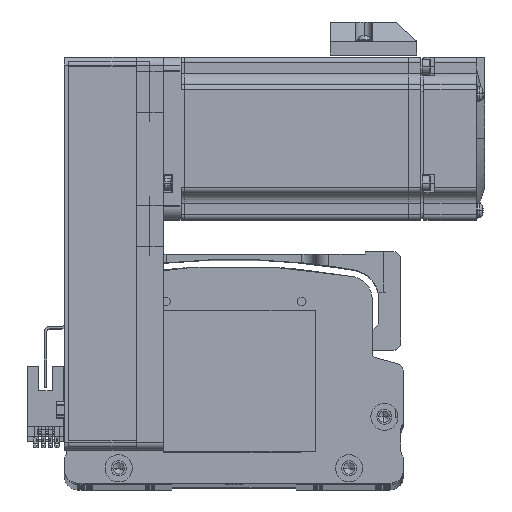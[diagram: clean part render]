
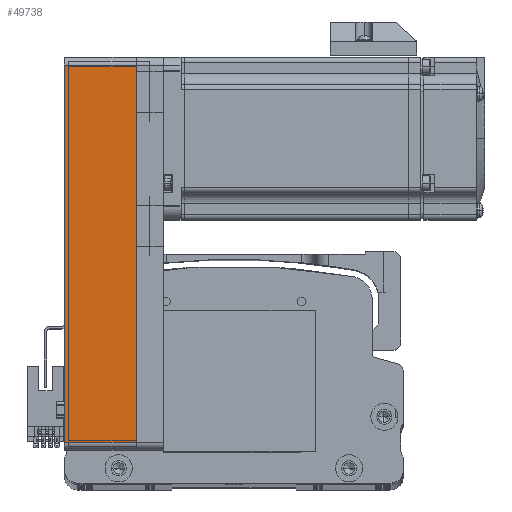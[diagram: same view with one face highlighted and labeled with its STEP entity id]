
A CAD part, top view. The second image highlights one B-rep face of the part: STEP entity #49738.
In plain terms, the highlighted planar face has unit normal (0, 0, 1) as drawn and (0, -1, 0) by its records, which use the part's own axes.
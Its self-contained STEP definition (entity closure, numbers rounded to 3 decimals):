
#795 = CARTESIAN_POINT ( 'NONE',  ( 72.5, -30., 26.5 ) ) ;
#3212 = CARTESIAN_POINT ( 'NONE',  ( 69.5, -30., 26.5 ) ) ;
#6989 = VECTOR ( 'NONE', #16028, 1000. ) ;
#7387 = DIRECTION ( 'NONE',  ( -1., 0., 0. ) ) ;
#7734 = VECTOR ( 'NONE', #29407, 1000. ) ;
#8097 = EDGE_LOOP ( 'NONE', ( #23592, #72395, #36779, #50097 ) ) ;
#9416 = CARTESIAN_POINT ( 'NONE',  ( 72.5, -30., 26.5 ) ) ;
#9791 = AXIS2_PLACEMENT_3D ( 'NONE', #795, #46716, #7387 ) ;
#9877 = CARTESIAN_POINT ( 'NONE',  ( 69.5, -30., 26.5 ) ) ;
#11955 = CARTESIAN_POINT ( 'NONE',  ( 72.5, -30., 0. ) ) ;
#16028 = DIRECTION ( 'NONE',  ( 1., 0., 0. ) ) ;
#18507 = EDGE_CURVE ( 'NONE', #22016, #56122, #34665, .T. ) ;
#20824 = CARTESIAN_POINT ( 'NONE',  ( -69.5, -30., 0. ) ) ;
#22016 = VERTEX_POINT ( 'NONE', #77296 ) ;
#23592 = ORIENTED_EDGE ( 'NONE', *, *, #31197, .T. ) ;
#24441 = LINE ( 'NONE', #9416, #6989 ) ;
#28270 = FACE_OUTER_BOUND ( 'NONE', #8097, .T. ) ;
#29407 = DIRECTION ( 'NONE',  ( 0., 0., -1. ) ) ;
#31197 = EDGE_CURVE ( 'NONE', #53232, #22016, #47793, .T. ) ;
#32627 = VECTOR ( 'NONE', #55744, 1000. ) ;
#34665 = LINE ( 'NONE', #9877, #32627 ) ;
#36779 = ORIENTED_EDGE ( 'NONE', *, *, #55058, .F. ) ;
#46716 = DIRECTION ( 'NONE',  ( 0., 1., 0. ) ) ;
#47793 = LINE ( 'NONE', #11955, #67215 ) ;
#49738 = ADVANCED_FACE ( 'NONE', ( #28270 ), #52957, .F. ) ;
#50097 = ORIENTED_EDGE ( 'NONE', *, *, #81708, .T. ) ;
#52321 = VERTEX_POINT ( 'NONE', #63376 ) ;
#52957 = PLANE ( 'NONE',  #9791 ) ;
#53232 = VERTEX_POINT ( 'NONE', #20824 ) ;
#55058 = EDGE_CURVE ( 'NONE', #52321, #56122, #24441, .T. ) ;
#55744 = DIRECTION ( 'NONE',  ( 0., 0., 1. ) ) ;
#56122 = VERTEX_POINT ( 'NONE', #3212 ) ;
#57777 = DIRECTION ( 'NONE',  ( 1., 0., 0. ) ) ;
#60005 = LINE ( 'NONE', #68358, #7734 ) ;
#63376 = CARTESIAN_POINT ( 'NONE',  ( -69.5, -30., 26.5 ) ) ;
#67215 = VECTOR ( 'NONE', #57777, 1000. ) ;
#68358 = CARTESIAN_POINT ( 'NONE',  ( -69.5, -30., 26.5 ) ) ;
#72395 = ORIENTED_EDGE ( 'NONE', *, *, #18507, .T. ) ;
#77296 = CARTESIAN_POINT ( 'NONE',  ( 69.5, -30., 0. ) ) ;
#81708 = EDGE_CURVE ( 'NONE', #52321, #53232, #60005, .T. ) ;
